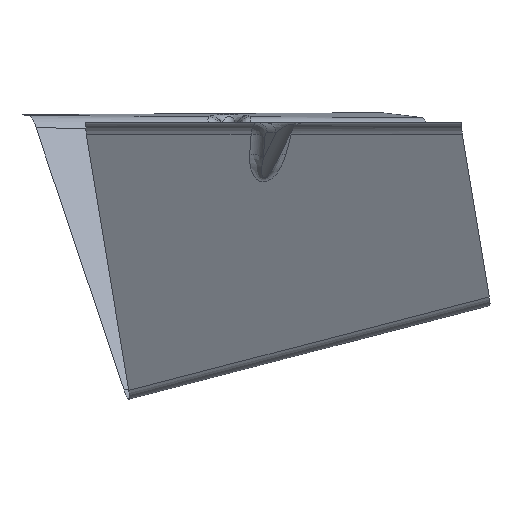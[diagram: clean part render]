
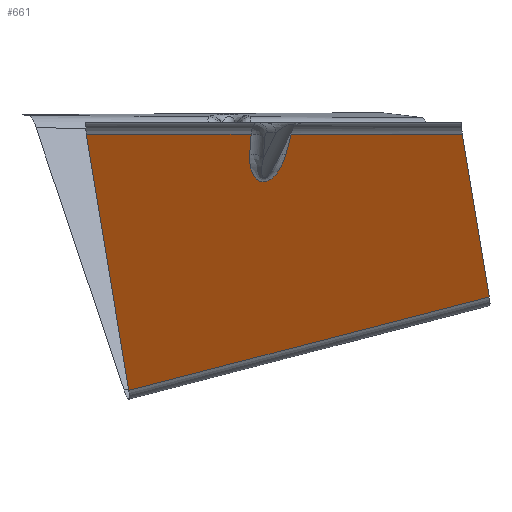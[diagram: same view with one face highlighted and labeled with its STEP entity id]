
A CAD part, left-side view. The second image highlights one B-rep face of the part: STEP entity #661.
In plain terms, the highlighted planar face has unit normal (-0.83, -0.249, -0.5).
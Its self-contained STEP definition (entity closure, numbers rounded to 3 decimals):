
#254=CARTESIAN_POINT('Vertex',(-75.318,6.019,-1.95)) ;
#277=CARTESIAN_POINT('Line Origine',(-60.99,7.702,-26.558)) ;
#281=CARTESIAN_POINT('Vertex',(-72.191,6.386,-7.32)) ;
#543=CARTESIAN_POINT('Control Point',(-69.305,-3.235,-7.32)) ;
#544=CARTESIAN_POINT('Control Point',(-69.12,-3.142,-7.673)) ;
#545=CARTESIAN_POINT('Control Point',(-68.938,-3.039,-8.026)) ;
#546=CARTESIAN_POINT('Control Point',(-68.76,-2.925,-8.379)) ;
#547=CARTESIAN_POINT('Control Point',(-68.416,-2.68,-9.071)) ;
#548=CARTESIAN_POINT('Control Point',(-68.089,-2.39,-9.759)) ;
#549=CARTESIAN_POINT('Control Point',(-67.932,-2.236,-10.095)) ;
#550=CARTESIAN_POINT('Control Point',(-67.644,-1.921,-10.729)) ;
#551=CARTESIAN_POINT('Control Point',(-67.378,-1.557,-11.353)) ;
#552=CARTESIAN_POINT('Control Point',(-67.257,-1.372,-11.645)) ;
#553=CARTESIAN_POINT('Control Point',(-67.046,-1.009,-12.175)) ;
#554=CARTESIAN_POINT('Control Point',(-66.862,-0.592,-12.688)) ;
#555=CARTESIAN_POINT('Control Point',(-66.784,-0.39,-12.918)) ;
#556=CARTESIAN_POINT('Control Point',(-66.66,-0.004,-13.317)) ;
#557=CARTESIAN_POINT('Control Point',(-66.568,0.436,-13.688)) ;
#558=CARTESIAN_POINT('Control Point',(-66.535,0.641,-13.844)) ;
#559=CARTESIAN_POINT('Control Point',(-66.495,1.023,-14.101)) ;
#560=CARTESIAN_POINT('Control Point',(-66.493,1.448,-14.316)) ;
#561=CARTESIAN_POINT('Control Point',(-66.501,1.639,-14.398)) ;
#562=CARTESIAN_POINT('Control Point',(-66.535,2.02,-14.531)) ;
#563=CARTESIAN_POINT('Control Point',(-66.611,2.422,-14.605)) ;
#564=CARTESIAN_POINT('Control Point',(-66.657,2.615,-14.624)) ;
#565=CARTESIAN_POINT('Control Point',(-66.778,3.025,-14.628)) ;
#566=CARTESIAN_POINT('Control Point',(-66.936,3.41,-14.557)) ;
#567=CARTESIAN_POINT('Control Point',(-67.029,3.603,-14.5)) ;
#568=CARTESIAN_POINT('Control Point',(-67.225,3.966,-14.355)) ;
#569=CARTESIAN_POINT('Control Point',(-67.435,4.278,-14.162)) ;
#570=CARTESIAN_POINT('Control Point',(-67.543,4.423,-14.055)) ;
#571=CARTESIAN_POINT('Control Point',(-67.785,4.722,-13.802)) ;
#572=CARTESIAN_POINT('Control Point',(-68.029,4.973,-13.522)) ;
#573=CARTESIAN_POINT('Control Point',(-68.164,5.099,-13.361)) ;
#574=CARTESIAN_POINT('Control Point',(-68.473,5.364,-12.981)) ;
#575=CARTESIAN_POINT('Control Point',(-68.778,5.579,-12.581)) ;
#576=CARTESIAN_POINT('Control Point',(-68.949,5.687,-12.351)) ;
#577=CARTESIAN_POINT('Control Point',(-69.338,5.907,-11.815)) ;
#578=CARTESIAN_POINT('Control Point',(-69.719,6.071,-11.264)) ;
#579=CARTESIAN_POINT('Control Point',(-69.931,6.149,-10.951)) ;
#580=CARTESIAN_POINT('Control Point',(-70.403,6.294,-10.241)) ;
#581=CARTESIAN_POINT('Control Point',(-70.862,6.378,-9.52)) ;
#582=CARTESIAN_POINT('Control Point',(-71.114,6.407,-9.118)) ;
#583=CARTESIAN_POINT('Control Point',(-71.482,6.428,-8.517)) ;
#584=CARTESIAN_POINT('Control Point',(-71.843,6.417,-7.914)) ;
#585=CARTESIAN_POINT('Control Point',(-71.96,6.41,-7.716)) ;
#586=CARTESIAN_POINT('Control Point',(-72.076,6.4,-7.518)) ;
#587=CARTESIAN_POINT('Control Point',(-72.191,6.386,-7.32)) ;
#588=CARTESIAN_POINT('Vertex',(-69.305,-3.235,-7.32)) ;
#606=CARTESIAN_POINT('Axis2P3D Location',(-33.969,-10.191,-62.481)) ;
#611=CARTESIAN_POINT('Line Origine',(-70.711,-3.942,-4.635)) ;
#615=CARTESIAN_POINT('Vertex',(-72.117,-4.65,-1.95)) ;
#618=CARTESIAN_POINT('Line Origine',(-81.893,27.935,-1.95)) ;
#622=CARTESIAN_POINT('Vertex',(-88.468,49.851,-1.95)) ;
#625=CARTESIAN_POINT('Line Origine',(-66.228,44.197,-36.031)) ;
#629=CARTESIAN_POINT('Vertex',(-43.989,38.543,-70.112)) ;
#632=CARTESIAN_POINT('Line Origine',(-37.108,-9.393,-57.67)) ;
#636=CARTESIAN_POINT('Vertex',(-30.228,-57.328,-45.227)) ;
#639=CARTESIAN_POINT('Line Origine',(-44.348,-53.738,-23.588)) ;
#643=CARTESIAN_POINT('Vertex',(-58.468,-50.149,-1.95)) ;
#646=CARTESIAN_POINT('Line Origine',(-65.293,-27.399,-1.95)) ;
#278=DIRECTION('Vector Direction',(0.502,0.059,-0.863)) ;
#607=DIRECTION('Axis2P3D Direction',(0.83,0.249,0.5)) ;
#608=DIRECTION('Axis2P3D XDirection',(0.541,-0.138,-0.83)) ;
#612=DIRECTION('Vector Direction',(-0.452,-0.227,0.863)) ;
#619=DIRECTION('Vector Direction',(0.287,-0.958,0.)) ;
#626=DIRECTION('Vector Direction',(0.541,-0.138,-0.83)) ;
#633=DIRECTION('Vector Direction',(0.138,-0.959,0.249)) ;
#640=DIRECTION('Vector Direction',(-0.541,0.138,0.83)) ;
#647=DIRECTION('Vector Direction',(0.287,-0.958,0.)) ;
#609=AXIS2_PLACEMENT_3D('Plane Axis2P3D',#606,#607,#608) ;
#652=ORIENTED_EDGE('',*,*,#617,.T.) ;
#653=ORIENTED_EDGE('',*,*,#590,.T.) ;
#654=ORIENTED_EDGE('',*,*,#283,.T.) ;
#655=ORIENTED_EDGE('',*,*,#624,.F.) ;
#656=ORIENTED_EDGE('',*,*,#631,.T.) ;
#657=ORIENTED_EDGE('',*,*,#638,.T.) ;
#658=ORIENTED_EDGE('',*,*,#645,.T.) ;
#659=ORIENTED_EDGE('',*,*,#650,.F.) ;
#279=VECTOR('Line Direction',#278,1.) ;
#613=VECTOR('Line Direction',#612,1.) ;
#620=VECTOR('Line Direction',#619,1.) ;
#627=VECTOR('Line Direction',#626,1.) ;
#634=VECTOR('Line Direction',#633,1.) ;
#641=VECTOR('Line Direction',#640,1.) ;
#648=VECTOR('Line Direction',#647,1.) ;
#661=ADVANCED_FACE('Extract.1',(#660),#610,.F.) ;
#542=B_SPLINE_CURVE_WITH_KNOTS('',5,(#543,#544,#545,#546,#547,#548,#549,#550,#551,#552,#553,#554,#555,#556,#557,#558,#559,#560,#561,#562,#563,#564,#565,#566,#567,#568,#569,#570,#571,#572,#573,#574,#575,#576,#577,#578,#579,#580,#581,#582,#583,#584,#585,#586,#587),.UNSPECIFIED.,.F.,.U.,(6,3,3,3,3,3,3,3,3,3,3,3,3,3,6),(18.1,20.842,23.494,25.873,27.868,29.433,30.605,31.676,32.88,34.105,35.61,37.568,40.092,43.244,44.778),.UNSPECIFIED.) ;
#283=EDGE_CURVE('',#282,#255,#280,.F.) ;
#590=EDGE_CURVE('',#589,#282,#542,.T.) ;
#617=EDGE_CURVE('',#616,#589,#614,.F.) ;
#624=EDGE_CURVE('',#623,#255,#621,.T.) ;
#631=EDGE_CURVE('',#623,#630,#628,.T.) ;
#638=EDGE_CURVE('',#630,#637,#635,.T.) ;
#645=EDGE_CURVE('',#637,#644,#642,.T.) ;
#650=EDGE_CURVE('',#616,#644,#649,.T.) ;
#651=EDGE_LOOP('',(#652,#653,#654,#655,#656,#657,#658,#659)) ;
#660=FACE_OUTER_BOUND('',#651,.T.) ;
#280=LINE('Line',#277,#279) ;
#614=LINE('Line',#611,#613) ;
#621=LINE('Line',#618,#620) ;
#628=LINE('Line',#625,#627) ;
#635=LINE('Line',#632,#634) ;
#642=LINE('Line',#639,#641) ;
#649=LINE('Line',#646,#648) ;
#610=PLANE('',#609) ;
#255=VERTEX_POINT('',#254) ;
#282=VERTEX_POINT('',#281) ;
#589=VERTEX_POINT('',#588) ;
#616=VERTEX_POINT('',#615) ;
#623=VERTEX_POINT('',#622) ;
#630=VERTEX_POINT('',#629) ;
#637=VERTEX_POINT('',#636) ;
#644=VERTEX_POINT('',#643) ;
